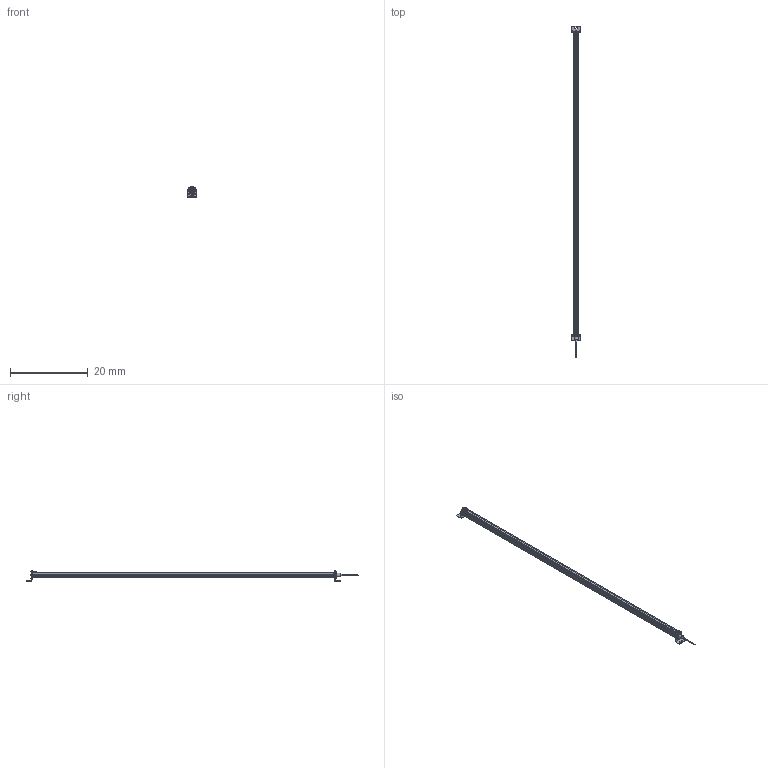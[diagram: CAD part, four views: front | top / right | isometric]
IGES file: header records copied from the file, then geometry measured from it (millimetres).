
Start section:  Autodesk DirectConnect version 7.0.27.0 ---- IGES version 5.3
Global section: file name: C:\ACADFILES\MG_PYLONS\CUSTOMER_FILES\MG-76-PYLON_3D_SMB.iges; native system: Autodesk DirectConnect 7.0.27.0; preprocessor: 7.0.27.0; author: ENGINEERMAIN; organization: Unknown; date: 20150810.143431; units: millimetre
Bounding box: 2.26 x 85.44 x 2.75 mm (x, y, z)
Surface area: 1190.1 mm2 (no closed solid volume)
Topology: 0 solids, 0 shells, 771 faces, 3970 edges, 3969 vertices
Faces by surface type: bspline 771
